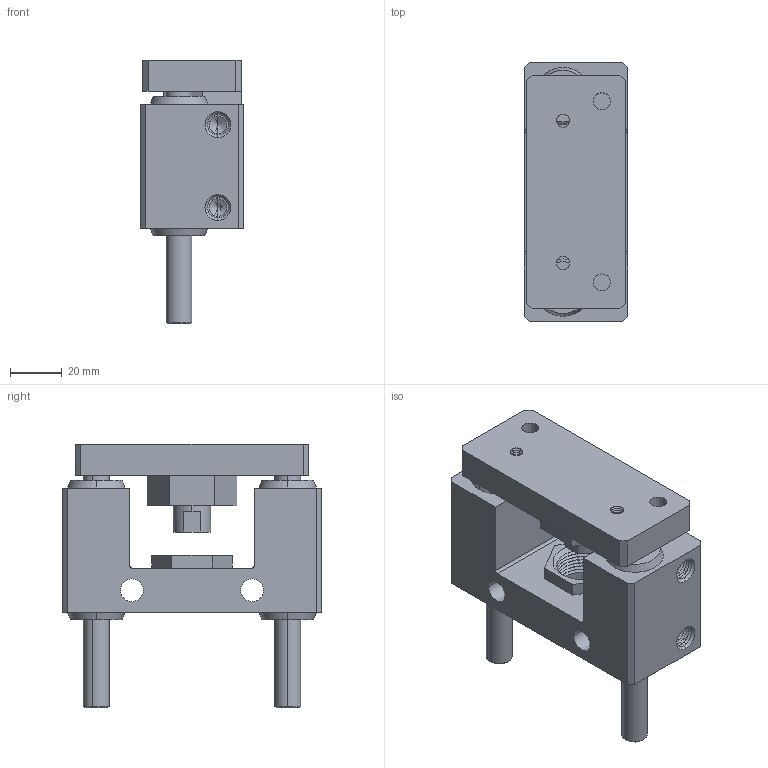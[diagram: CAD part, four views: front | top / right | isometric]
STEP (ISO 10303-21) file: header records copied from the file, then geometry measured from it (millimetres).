
FILE_DESCRIPTION (( 'STEP AP203' ), '1' );
FILE_NAME ('GLC20.0025.STEP', '2005-10-25T15:18:37', ( 'Vesta Automation srl' ), ( 'Vesta Automation srl' ), 'SwSTEP 2.0', 'SolidWorks 2005187', '' );
FILE_SCHEMA (( 'CONFIG_CONTROL_DESIGN' ));
Length unit declared in the file: millimetre
Products named in the file (4): GLC20.0025; PLATE-GLC20; GUIDE STEMS-GLC20_STROKE 0025; SUPPORTING BODY-GLC20
Assembly tree (4 placements, depth 2):
  GLC20.0025
    PLATE-GLC20
    GUIDE STEMS-GLC20_STROKE 0025  x2
    SUPPORTING BODY-GLC20
Bounding box: 40 x 100 x 102 mm (x, y, z)
Volume: 173930.1 mm3; surface area: 51797.1 mm2
Topology: 4 solids, 5 shells, 646 faces, 1436 edges, 818 vertices
Faces by surface type: cone 420, plane 162, cylinder 64
Entity records: 17804 total; most frequent: DIRECTION 3258, CARTESIAN_POINT 2907, ORIENTED_EDGE 2836, EDGE_CURVE 1418, AXIS2_PLACEMENT_3D 1199, VECTOR 860, LINE 860, VERTEX_POINT 812
